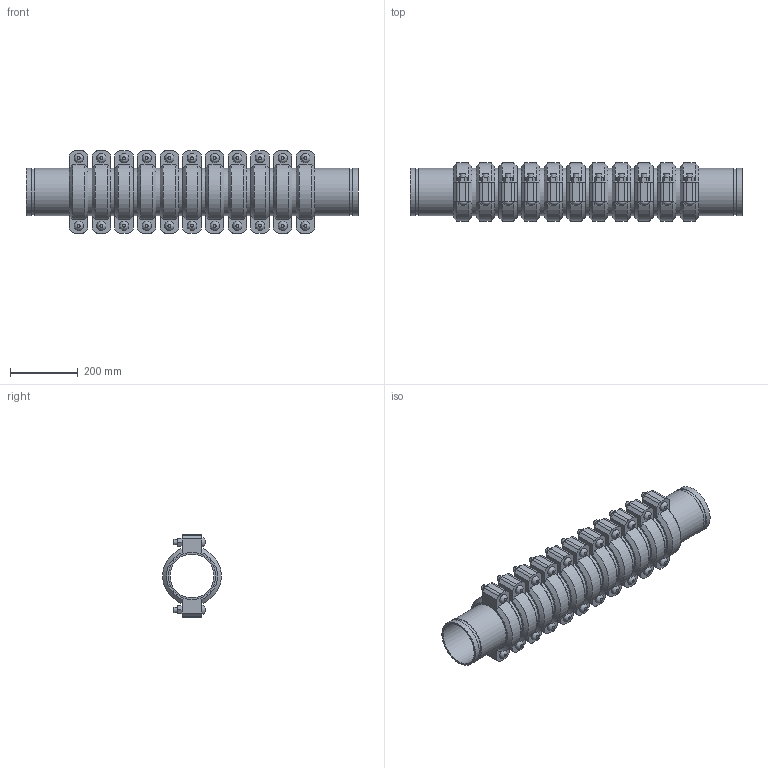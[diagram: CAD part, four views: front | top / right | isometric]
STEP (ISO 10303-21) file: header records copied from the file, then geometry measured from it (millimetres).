
FILE_DESCRIPTION(/* description */ ('VIC EXPANSION JOINT 11 COUPLINGS EXPANDED STYLE 155 (OGS)','CAx-IF Rec.Pracs.---Representation and Presentation of Product Manufacturing Information (PMI)---4.0---2014-10-13'),/* implementation_level */ '2;1');
FILE_NAME(/* name */ 'C:\Users\kkamble\AppData\Roaming\Autodesk\ApplicationPlugins\Victaulic.Temp\A474\Victaulic_IPS_Expansion Joint_Expanded_11 Couplings_Style 155 (OGS)_05.0 (139.7) (125).stp',/* time_stamp */ '2021-06-26T23:52:18+02:00',/* author */ ('kkamble'),/* organization */ ('Victaulic'),/* preprocessor_version */ 'ST-DEVELOPER v17.2',/* originating_system */ 'Autodesk Inventor 2019',/* authorisation */ '');
FILE_SCHEMA (('AP242_MANAGED_MODEL_BASED_3D_ENGINEERING_MIM_LF { 1 0 10303 442 1 1 4 }'));
Length unit declared in the file: inch
Products named in the file (4): 155-05.0 (139.7); Nipple-05.0 (139.7); Nipple-05.0 (139.7)_1; 075-05.0 (139.7)
Assembly tree (23 placements, depth 2):
  155-05.0 (139.7)
    Nipple-05.0 (139.7)  x2
    Nipple-05.0 (139.7)_1  x10
    075-05.0 (139.7)  x11
Bounding box: 978.41 x 172.14 x 243.59 mm (x, y, z)
Volume: 8830711.2 mm3; surface area: 1970972.9 mm2
Topology: 23 solids, 45 shells, 771 faces, 1823 edges, 1278 vertices
Faces by surface type: plane 468, cylinder 237, cone 44, bspline 22
Full cylindrical faces by diameter (mm): 15.875 x44, 17.424 x22, 129.388 x12, 133.35 x11, 135.484 x24, 139.7 x58
Entity records: 2897 total; most frequent: CARTESIAN_POINT 507, DIRECTION 489, ORIENTED_EDGE 386, AXIS2_PLACEMENT_3D 198, EDGE_CURVE 193, VERTEX_POINT 138, EDGE_LOOP 107, LINE 93
